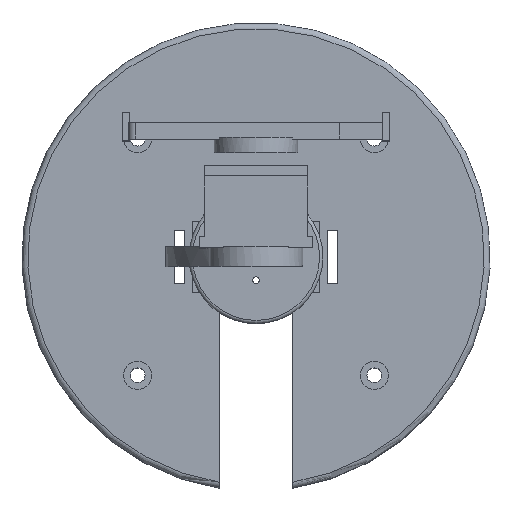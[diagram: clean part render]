
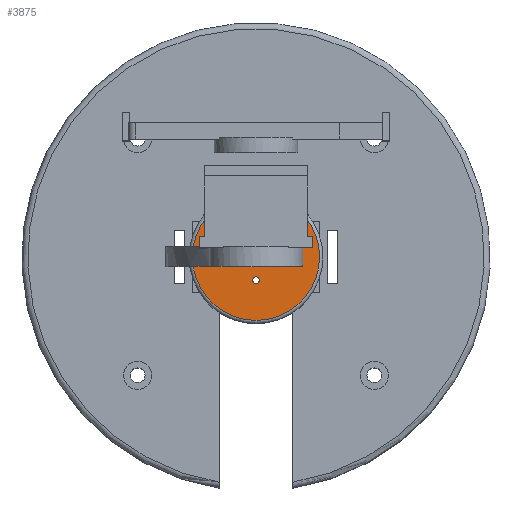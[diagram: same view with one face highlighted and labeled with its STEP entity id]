
A CAD part, top view. The second image highlights one B-rep face of the part: STEP entity #3875.
In plain terms, the highlighted planar face has unit normal (0, 0, 1).
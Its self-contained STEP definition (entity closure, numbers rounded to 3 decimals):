
#3569 = TOROIDAL_SURFACE('',#3570,19.,1.);
#3570 = AXIS2_PLACEMENT_3D('',#3571,#3572,#3573);
#3571 = CARTESIAN_POINT('',(0.,0.,7.));
#3572 = DIRECTION('',(0.,0.,1.));
#3573 = DIRECTION('',(1.,0.,-0.));
#3667 = VERTEX_POINT('',#3668);
#3668 = CARTESIAN_POINT('',(19.,0.,8.));
#3690 = EDGE_CURVE('',#3667,#3667,#3691,.T.);
#3691 = SURFACE_CURVE('',#3692,(#3697,#3704),.PCURVE_S1.);
#3692 = CIRCLE('',#3693,19.);
#3693 = AXIS2_PLACEMENT_3D('',#3694,#3695,#3696);
#3694 = CARTESIAN_POINT('',(0.,0.,8.));
#3695 = DIRECTION('',(0.,0.,1.));
#3696 = DIRECTION('',(1.,0.,-0.));
#3697 = PCURVE('',#3569,#3698);
#3698 = DEFINITIONAL_REPRESENTATION('',(#3699),#3703);
#3699 = LINE('',#3700,#3701);
#3700 = CARTESIAN_POINT('',(0.,1.571));
#3701 = VECTOR('',#3702,1.);
#3702 = DIRECTION('',(1.,0.));
#3703 = ( GEOMETRIC_REPRESENTATION_CONTEXT(2) 
PARAMETRIC_REPRESENTATION_CONTEXT() REPRESENTATION_CONTEXT('2D SPACE',''
  ) );
#3704 = PCURVE('',#3705,#3710);
#3705 = PLANE('',#3706);
#3706 = AXIS2_PLACEMENT_3D('',#3707,#3708,#3709);
#3707 = CARTESIAN_POINT('',(0.,0.,8.));
#3708 = DIRECTION('',(0.,0.,1.));
#3709 = DIRECTION('',(1.,0.,-0.));
#3710 = DEFINITIONAL_REPRESENTATION('',(#3711),#3715);
#3711 = CIRCLE('',#3712,19.);
#3712 = AXIS2_PLACEMENT_2D('',#3713,#3714);
#3713 = CARTESIAN_POINT('',(0.,0.));
#3714 = DIRECTION('',(1.,0.));
#3715 = ( GEOMETRIC_REPRESENTATION_CONTEXT(2) 
PARAMETRIC_REPRESENTATION_CONTEXT() REPRESENTATION_CONTEXT('2D SPACE',''
  ) );
#3740 = CYLINDRICAL_SURFACE('',#3741,1.);
#3741 = AXIS2_PLACEMENT_3D('',#3742,#3743,#3744);
#3742 = CARTESIAN_POINT('',(0.,-7.,3.5));
#3743 = DIRECTION('',(0.,0.,1.));
#3744 = DIRECTION('',(1.,0.,-0.));
#3864 = CYLINDRICAL_SURFACE('',#3865,1.);
#3865 = AXIS2_PLACEMENT_3D('',#3866,#3867,#3868);
#3866 = CARTESIAN_POINT('',(0.,7.,3.5));
#3867 = DIRECTION('',(0.,0.,1.));
#3868 = DIRECTION('',(1.,0.,-0.));
#3875 = ADVANCED_FACE('',(#3876,#3879,#3905,#4011),#3705,.T.);
#3876 = FACE_BOUND('',#3877,.T.);
#3877 = EDGE_LOOP('',(#3878));
#3878 = ORIENTED_EDGE('',*,*,#3690,.T.);
#3879 = FACE_BOUND('',#3880,.T.);
#3880 = EDGE_LOOP('',(#3881));
#3881 = ORIENTED_EDGE('',*,*,#3882,.F.);
#3882 = EDGE_CURVE('',#3883,#3883,#3885,.T.);
#3883 = VERTEX_POINT('',#3884);
#3884 = CARTESIAN_POINT('',(1.,-7.,8.));
#3885 = SURFACE_CURVE('',#3886,(#3891,#3898),.PCURVE_S1.);
#3886 = CIRCLE('',#3887,1.);
#3887 = AXIS2_PLACEMENT_3D('',#3888,#3889,#3890);
#3888 = CARTESIAN_POINT('',(0.,-7.,8.));
#3889 = DIRECTION('',(0.,0.,1.));
#3890 = DIRECTION('',(1.,0.,-0.));
#3891 = PCURVE('',#3705,#3892);
#3892 = DEFINITIONAL_REPRESENTATION('',(#3893),#3897);
#3893 = CIRCLE('',#3894,1.);
#3894 = AXIS2_PLACEMENT_2D('',#3895,#3896);
#3895 = CARTESIAN_POINT('',(0.,-7.));
#3896 = DIRECTION('',(1.,0.));
#3897 = ( GEOMETRIC_REPRESENTATION_CONTEXT(2) 
PARAMETRIC_REPRESENTATION_CONTEXT() REPRESENTATION_CONTEXT('2D SPACE',''
  ) );
#3898 = PCURVE('',#3740,#3899);
#3899 = DEFINITIONAL_REPRESENTATION('',(#3900),#3904);
#3900 = LINE('',#3901,#3902);
#3901 = CARTESIAN_POINT('',(0.,4.5));
#3902 = VECTOR('',#3903,1.);
#3903 = DIRECTION('',(1.,0.));
#3904 = ( GEOMETRIC_REPRESENTATION_CONTEXT(2) 
PARAMETRIC_REPRESENTATION_CONTEXT() REPRESENTATION_CONTEXT('2D SPACE',''
  ) );
#3905 = FACE_BOUND('',#3906,.T.);
#3906 = EDGE_LOOP('',(#3907,#3935,#3961,#3987));
#3907 = ORIENTED_EDGE('',*,*,#3908,.F.);
#3908 = EDGE_CURVE('',#3909,#3911,#3913,.T.);
#3909 = VERTEX_POINT('',#3910);
#3910 = CARTESIAN_POINT('',(12.649,3.,8.));
#3911 = VERTEX_POINT('',#3912);
#3912 = CARTESIAN_POINT('',(-12.649,3.,8.));
#3913 = SURFACE_CURVE('',#3914,(#3918,#3924),.PCURVE_S1.);
#3914 = LINE('',#3915,#3916);
#3915 = CARTESIAN_POINT('',(-5.45,3.,8.));
#3916 = VECTOR('',#3917,1.);
#3917 = DIRECTION('',(-1.,0.,0.));
#3918 = PCURVE('',#3705,#3919);
#3919 = DEFINITIONAL_REPRESENTATION('',(#3920),#3923);
#3920 = B_SPLINE_CURVE_WITH_KNOTS('',1,(#3921,#3922),.UNSPECIFIED.,.F.,
  .F.,(2,2),(-19.45,13.55),.PIECEWISE_BEZIER_KNOTS.);
#3921 = CARTESIAN_POINT('',(14.,3.));
#3922 = CARTESIAN_POINT('',(-19.,3.));
#3923 = ( GEOMETRIC_REPRESENTATION_CONTEXT(2) 
PARAMETRIC_REPRESENTATION_CONTEXT() REPRESENTATION_CONTEXT('2D SPACE',''
  ) );
#3924 = PCURVE('',#3925,#3930);
#3925 = PLANE('',#3926);
#3926 = AXIS2_PLACEMENT_3D('',#3927,#3928,#3929);
#3927 = CARTESIAN_POINT('',(-10.9,3.,54.));
#3928 = DIRECTION('',(0.,1.,0.));
#3929 = DIRECTION('',(0.,-0.,1.));
#3930 = DEFINITIONAL_REPRESENTATION('',(#3931),#3934);
#3931 = B_SPLINE_CURVE_WITH_KNOTS('',1,(#3932,#3933),.UNSPECIFIED.,.F.,
  .F.,(2,2),(-19.45,13.55),.PIECEWISE_BEZIER_KNOTS.);
#3932 = CARTESIAN_POINT('',(-46.,24.9));
#3933 = CARTESIAN_POINT('',(-46.,-8.1));
#3934 = ( GEOMETRIC_REPRESENTATION_CONTEXT(2) 
PARAMETRIC_REPRESENTATION_CONTEXT() REPRESENTATION_CONTEXT('2D SPACE',''
  ) );
#3935 = ORIENTED_EDGE('',*,*,#3936,.T.);
#3936 = EDGE_CURVE('',#3909,#3937,#3939,.T.);
#3937 = VERTEX_POINT('',#3938);
#3938 = CARTESIAN_POINT('',(12.649,-3.,8.));
#3939 = SURFACE_CURVE('',#3940,(#3944,#3950),.PCURVE_S1.);
#3940 = LINE('',#3941,#3942);
#3941 = CARTESIAN_POINT('',(12.649,0.,8.));
#3942 = VECTOR('',#3943,1.);
#3943 = DIRECTION('',(0.,-1.,0.));
#3944 = PCURVE('',#3705,#3945);
#3945 = DEFINITIONAL_REPRESENTATION('',(#3946),#3949);
#3946 = B_SPLINE_CURVE_WITH_KNOTS('',1,(#3947,#3948),.UNSPECIFIED.,.F.,
  .F.,(2,2),(-3.,3.),.PIECEWISE_BEZIER_KNOTS.);
#3947 = CARTESIAN_POINT('',(12.649,3.));
#3948 = CARTESIAN_POINT('',(12.649,-3.));
#3949 = ( GEOMETRIC_REPRESENTATION_CONTEXT(2) 
PARAMETRIC_REPRESENTATION_CONTEXT() REPRESENTATION_CONTEXT('2D SPACE',''
  ) );
#3950 = PCURVE('',#3951,#3956);
#3951 = CYLINDRICAL_SURFACE('',#3952,14.);
#3952 = AXIS2_PLACEMENT_3D('',#3953,#3954,#3955);
#3953 = CARTESIAN_POINT('',(0.,0.,14.));
#3954 = DIRECTION('',(0.,-1.,0.));
#3955 = DIRECTION('',(1.,0.,0.));
#3956 = DEFINITIONAL_REPRESENTATION('',(#3957),#3960);
#3957 = B_SPLINE_CURVE_WITH_KNOTS('',1,(#3958,#3959),.UNSPECIFIED.,.F.,
  .F.,(2,2),(-3.,3.),.PIECEWISE_BEZIER_KNOTS.);
#3958 = CARTESIAN_POINT('',(5.84,-3.));
#3959 = CARTESIAN_POINT('',(5.84,3.));
#3960 = ( GEOMETRIC_REPRESENTATION_CONTEXT(2) 
PARAMETRIC_REPRESENTATION_CONTEXT() REPRESENTATION_CONTEXT('2D SPACE',''
  ) );
#3961 = ORIENTED_EDGE('',*,*,#3962,.T.);
#3962 = EDGE_CURVE('',#3937,#3963,#3965,.T.);
#3963 = VERTEX_POINT('',#3964);
#3964 = CARTESIAN_POINT('',(-12.649,-3.,8.));
#3965 = SURFACE_CURVE('',#3966,(#3970,#3976),.PCURVE_S1.);
#3966 = LINE('',#3967,#3968);
#3967 = CARTESIAN_POINT('',(-5.45,-3.,8.));
#3968 = VECTOR('',#3969,1.);
#3969 = DIRECTION('',(-1.,0.,0.));
#3970 = PCURVE('',#3705,#3971);
#3971 = DEFINITIONAL_REPRESENTATION('',(#3972),#3975);
#3972 = B_SPLINE_CURVE_WITH_KNOTS('',1,(#3973,#3974),.UNSPECIFIED.,.F.,
  .F.,(2,2),(-19.45,13.55),.PIECEWISE_BEZIER_KNOTS.);
#3973 = CARTESIAN_POINT('',(14.,-3.));
#3974 = CARTESIAN_POINT('',(-19.,-3.));
#3975 = ( GEOMETRIC_REPRESENTATION_CONTEXT(2) 
PARAMETRIC_REPRESENTATION_CONTEXT() REPRESENTATION_CONTEXT('2D SPACE',''
  ) );
#3976 = PCURVE('',#3977,#3982);
#3977 = PLANE('',#3978);
#3978 = AXIS2_PLACEMENT_3D('',#3979,#3980,#3981);
#3979 = CARTESIAN_POINT('',(-10.9,-3.,54.));
#3980 = DIRECTION('',(0.,1.,0.));
#3981 = DIRECTION('',(0.,-0.,1.));
#3982 = DEFINITIONAL_REPRESENTATION('',(#3983),#3986);
#3983 = B_SPLINE_CURVE_WITH_KNOTS('',1,(#3984,#3985),.UNSPECIFIED.,.F.,
  .F.,(2,2),(-19.45,13.55),.PIECEWISE_BEZIER_KNOTS.);
#3984 = CARTESIAN_POINT('',(-46.,24.9));
#3985 = CARTESIAN_POINT('',(-46.,-8.1));
#3986 = ( GEOMETRIC_REPRESENTATION_CONTEXT(2) 
PARAMETRIC_REPRESENTATION_CONTEXT() REPRESENTATION_CONTEXT('2D SPACE',''
  ) );
#3987 = ORIENTED_EDGE('',*,*,#3988,.F.);
#3988 = EDGE_CURVE('',#3911,#3963,#3989,.T.);
#3989 = SURFACE_CURVE('',#3990,(#3994,#4000),.PCURVE_S1.);
#3990 = LINE('',#3991,#3992);
#3991 = CARTESIAN_POINT('',(-12.649,0.,8.));
#3992 = VECTOR('',#3993,1.);
#3993 = DIRECTION('',(0.,-1.,0.));
#3994 = PCURVE('',#3705,#3995);
#3995 = DEFINITIONAL_REPRESENTATION('',(#3996),#3999);
#3996 = B_SPLINE_CURVE_WITH_KNOTS('',1,(#3997,#3998),.UNSPECIFIED.,.F.,
  .F.,(2,2),(-3.,3.),.PIECEWISE_BEZIER_KNOTS.);
#3997 = CARTESIAN_POINT('',(-12.649,3.));
#3998 = CARTESIAN_POINT('',(-12.649,-3.));
#3999 = ( GEOMETRIC_REPRESENTATION_CONTEXT(2) 
PARAMETRIC_REPRESENTATION_CONTEXT() REPRESENTATION_CONTEXT('2D SPACE',''
  ) );
#4000 = PCURVE('',#4001,#4006);
#4001 = CYLINDRICAL_SURFACE('',#4002,14.);
#4002 = AXIS2_PLACEMENT_3D('',#4003,#4004,#4005);
#4003 = CARTESIAN_POINT('',(0.,0.,14.));
#4004 = DIRECTION('',(0.,-1.,0.));
#4005 = DIRECTION('',(1.,0.,0.));
#4006 = DEFINITIONAL_REPRESENTATION('',(#4007),#4010);
#4007 = B_SPLINE_CURVE_WITH_KNOTS('',1,(#4008,#4009),.UNSPECIFIED.,.F.,
  .F.,(2,2),(-3.,3.),.PIECEWISE_BEZIER_KNOTS.);
#4008 = CARTESIAN_POINT('',(3.585,-3.));
#4009 = CARTESIAN_POINT('',(3.585,3.));
#4010 = ( GEOMETRIC_REPRESENTATION_CONTEXT(2) 
PARAMETRIC_REPRESENTATION_CONTEXT() REPRESENTATION_CONTEXT('2D SPACE',''
  ) );
#4011 = FACE_BOUND('',#4012,.T.);
#4012 = EDGE_LOOP('',(#4013));
#4013 = ORIENTED_EDGE('',*,*,#4014,.F.);
#4014 = EDGE_CURVE('',#4015,#4015,#4017,.T.);
#4015 = VERTEX_POINT('',#4016);
#4016 = CARTESIAN_POINT('',(1.,7.,8.));
#4017 = SURFACE_CURVE('',#4018,(#4023,#4030),.PCURVE_S1.);
#4018 = CIRCLE('',#4019,1.);
#4019 = AXIS2_PLACEMENT_3D('',#4020,#4021,#4022);
#4020 = CARTESIAN_POINT('',(0.,7.,8.));
#4021 = DIRECTION('',(0.,0.,1.));
#4022 = DIRECTION('',(1.,0.,-0.));
#4023 = PCURVE('',#3705,#4024);
#4024 = DEFINITIONAL_REPRESENTATION('',(#4025),#4029);
#4025 = CIRCLE('',#4026,1.);
#4026 = AXIS2_PLACEMENT_2D('',#4027,#4028);
#4027 = CARTESIAN_POINT('',(0.,7.));
#4028 = DIRECTION('',(1.,0.));
#4029 = ( GEOMETRIC_REPRESENTATION_CONTEXT(2) 
PARAMETRIC_REPRESENTATION_CONTEXT() REPRESENTATION_CONTEXT('2D SPACE',''
  ) );
#4030 = PCURVE('',#3864,#4031);
#4031 = DEFINITIONAL_REPRESENTATION('',(#4032),#4036);
#4032 = LINE('',#4033,#4034);
#4033 = CARTESIAN_POINT('',(0.,4.5));
#4034 = VECTOR('',#4035,1.);
#4035 = DIRECTION('',(1.,0.));
#4036 = ( GEOMETRIC_REPRESENTATION_CONTEXT(2) 
PARAMETRIC_REPRESENTATION_CONTEXT() REPRESENTATION_CONTEXT('2D SPACE',''
  ) );
